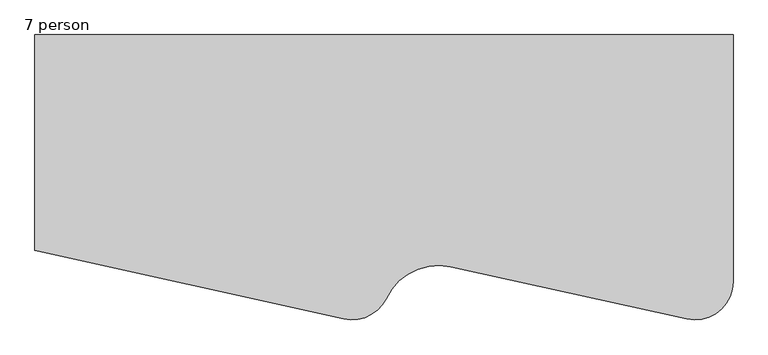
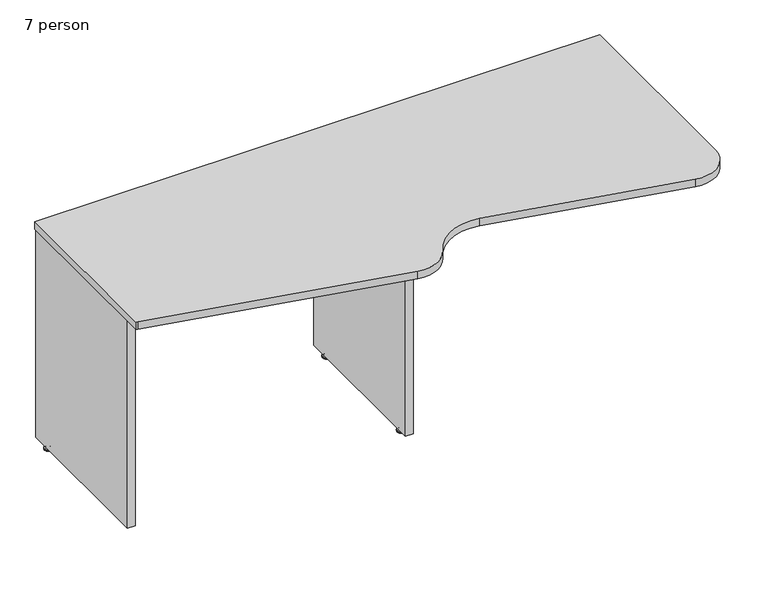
"""IFC4 building model written with IfcOpenShell, lengths in millimetres: furniture geometry, Nova Solutions - Collaboration Table - Keystone_6-7 person : 7 person."""

import ifcopenshell
import ifcopenshell.guid

model = None  # the IFC model being written
_history = None  # IfcOwnerHistory: only IFC2X3 demands one
_inside = {}  # id of a spatial element -> (the spatial element, [elements in it])
_under = {}  # id of a project, library or spatial element -> (it, [spatial elements below it])
_declared = {}  # id of a project -> (the project, [libraries it declares])
_typed = {}  # id of a type object -> (the type object, [elements of that type])
_made_of = {}  # id of a material, layer set ... -> (it, [elements and type objects made of it])


def new_model(schema):
    """Start an empty IFC model of exactly this schema.

    Asked for "IFC4X3", IfcOpenShell would pick the latest addendum, in which some entities
    have other attributes; the version numbers below select the first issue.
    IFC2X3 requires an IfcOwnerHistory on every rooted entity: one is made here for all.
    """
    global model, _history
    if schema == "IFC4X3":
        model = ifcopenshell.file(schema_version=(4, 3, 0, 0))
    else:
        model = ifcopenshell.file(schema=schema)
    _inside.clear()
    _under.clear()
    _declared.clear()
    _typed.clear()
    _made_of.clear()
    _history = None
    if model.schema == "IFC2X3":
        org = make("IfcOrganization", Name="unknown")
        user = make(
            "IfcPersonAndOrganization",
            ThePerson=make("IfcPerson", FamilyName="unknown"),
            TheOrganization=org,
        )
        app = make(
            "IfcApplication",
            ApplicationDeveloper=org,
            Version="unknown",
            ApplicationFullName="unknown",
            ApplicationIdentifier="unknown",
        )
        _history = make(
            "IfcOwnerHistory",
            OwningUser=user,
            OwningApplication=app,
            ChangeAction="ADDED",
            CreationDate=0,
        )
    return model


def make(cls, **values):
    """One entity of the class cls with the attributes given. An attribute that is None is left unset."""
    return model.create_entity(
        cls, **{name: value for name, value in values.items() if value is not None}
    )


def rooted(cls, **values):
    """An entity with a GlobalId (a new one), such as an element, a storey or a relation."""
    return make(cls, GlobalId=ifcopenshell.guid.new(), OwnerHistory=_history, **values)


def si_unit(unit_type, name, prefix=None):
    """IfcSIUnit, for example si_unit("LENGTHUNIT", "METRE", prefix="MILLI")."""
    return make("IfcSIUnit", UnitType=unit_type, Prefix=prefix, Name=name)


def assignment(units):
    """IfcUnitAssignment: the units of a project."""
    return None if units is None else make("IfcUnitAssignment", Units=units)


def point(xyz):
    """IfcCartesianPoint."""
    return None if xyz is None else make("IfcCartesianPoint", Coordinates=xyz)


def direction(xyz):
    """IfcDirection."""
    return None if xyz is None else make("IfcDirection", DirectionRatios=xyz)


def frame(location, z_axis=None, x_axis=None):
    """IfcAxis2Placement3D, a coordinate frame: its origin and axes. An axis left out is left unset."""
    return make(
        "IfcAxis2Placement3D",
        Location=point(location),
        Axis=direction(z_axis),
        RefDirection=direction(x_axis),
    )


def frame_2d(location, x_axis=None):
    """IfcAxis2Placement2D, a coordinate frame in the plane: its origin and x axis."""
    return make(
        "IfcAxis2Placement2D", Location=point(location), RefDirection=direction(x_axis)
    )


def origin():
    """The frame at (0, 0, 0) with its axes left unset."""
    return frame((0.0, 0.0, 0.0))


def place(relative_to, where):
    """IfcLocalPlacement: puts the frame where relative to a parent placement (None: the world)."""
    return make(
        "IfcLocalPlacement", PlacementRelTo=relative_to, RelativePlacement=where
    )


def context(
    kind, dimensions, precision=None, world=None, true_north=None, identifier=None
):
    """IfcGeometricRepresentationContext, for example the 3D "Model" context."""
    return make(
        "IfcGeometricRepresentationContext",
        ContextIdentifier=identifier,
        ContextType=kind,
        CoordinateSpaceDimension=dimensions,
        Precision=precision,
        WorldCoordinateSystem=world,
        TrueNorth=true_north,
    )


def project(units=None, contexts=None):
    """IfcProject with its units and contexts."""
    return rooted(
        "IfcProject",
        Name="project",
        RepresentationContexts=contexts,
        UnitsInContext=assignment(units),
    )


def spatial(cls, under=None, at=None, **own):
    """A site, building, storey or space (cls), placed at a placement, below another one or the project."""
    s = rooted(cls, ObjectPlacement=at, **own)
    if under is not None:
        _under.setdefault(under.id(), (under, []))[1].append(s)
    return s


def polyline(points):
    """IfcPolyline through the points."""
    return make("IfcPolyline", Points=[point(p) for p in points])


def circle_curve(where, radius):
    """IfcCircle in the frame where."""
    return make("IfcCircle", Position=where, Radius=radius)


def ellipse_curve(where, semi_axis1, semi_axis2):
    """IfcEllipse in the frame where."""
    return make(
        "IfcEllipse", Position=where, SemiAxis1=semi_axis1, SemiAxis2=semi_axis2
    )


def trimmed(basis, trim1, trim2, sense, master):
    """IfcTrimmedCurve: the piece of a basis curve between two trims."""
    return make(
        "IfcTrimmedCurve",
        BasisCurve=basis,
        Trim1=trim1,
        Trim2=trim2,
        SenseAgreement=sense,
        MasterRepresentation=master,
    )


def segment(curve, same_sense, transition):
    """IfcCompositeCurveSegment."""
    return make(
        "IfcCompositeCurveSegment",
        Transition=transition,
        SameSense=same_sense,
        ParentCurve=curve,
    )


def composite_curve(segments, self_intersect=None):
    """IfcCompositeCurve: segments joined end to end."""
    return make("IfcCompositeCurve", Segments=segments, SelfIntersect=self_intersect)


def outline(outer, holes=None, kind="AREA"):
    """IfcArbitraryClosedProfileDef: a profile drawn as a closed curve; with holes, ...WithVoids."""
    if holes is None:
        return make("IfcArbitraryClosedProfileDef", ProfileType=kind, OuterCurve=outer)
    return make(
        "IfcArbitraryProfileDefWithVoids",
        ProfileType=kind,
        OuterCurve=outer,
        InnerCurves=holes,
    )


def extrude(swept, where, along, depth):
    """IfcExtrudedAreaSolid: the profile swept, set in the frame where, extruded along a direction by depth."""
    return make(
        "IfcExtrudedAreaSolid",
        SweptArea=swept,
        Position=where,
        ExtrudedDirection=direction(along),
        Depth=depth,
    )


def shape(context_of_items, identifier, shape_type, items):
    """IfcShapeRepresentation: the items that make up one representation, for example the "Body"."""
    return make(
        "IfcShapeRepresentation",
        ContextOfItems=context_of_items,
        RepresentationIdentifier=identifier,
        RepresentationType=shape_type,
        Items=items,
    )


def source(mapping_origin, context_of_items, identifier, shape_type, items):
    """IfcRepresentationMap: a shape defined once, which mapped items show again and again."""
    return make(
        "IfcRepresentationMap",
        MappingOrigin=mapping_origin,
        MappedRepresentation=shape(context_of_items, identifier, shape_type, items),
    )


def transform(
    local_origin,
    x_axis=None,
    y_axis=None,
    z_axis=None,
    scale=None,
    scale2=None,
    scale3=None,
    uniform=True,
):
    """IfcCartesianTransformationOperator3D, or its non-uniform kind. x_axis, y_axis, z_axis: its Axis1, 2, 3."""
    if uniform:
        return make(
            "IfcCartesianTransformationOperator3D",
            Axis1=direction(x_axis),
            Axis2=direction(y_axis),
            LocalOrigin=point(local_origin),
            Scale=scale,
            Axis3=direction(z_axis),
        )
    return make(
        "IfcCartesianTransformationOperator3DnonUniform",
        Axis1=direction(x_axis),
        Axis2=direction(y_axis),
        LocalOrigin=point(local_origin),
        Scale=scale,
        Axis3=direction(z_axis),
        Scale2=scale2,
        Scale3=scale3,
    )


def mapped(mapping_source, mapping_target):
    """IfcMappedItem: shows the shape of a source again, moved by a transform."""
    return make(
        "IfcMappedItem", MappingSource=mapping_source, MappingTarget=mapping_target
    )


def made_of(thing, what):
    """Note that an element or type object is made of a material, layer set ...; save() writes the relation."""
    if what is not None:
        _made_of.setdefault(what.id(), (what, []))[1].append(thing)
    return thing


def element(
    cls,
    number,
    at=None,
    inside=None,
    cuts=None,
    type_object=None,
    material=None,
    context=None,
    identifier="Body",
    shape_type=None,
    held_by="IfcProductDefinitionShape",
    body=None,
    shapes=None,
    **own,
):
    """One element of the class cls, such as IfcWall. Its Tag is "e" and its number.

    at: its placement. inside: the storey or other place that contains it. cuts: it is an
    opening in that element (IfcRelVoidsElement). A single representation is given by context,
    identifier, shape_type and body (its items); several are given by shapes. held_by: the class
    of the entity that holds the representations. save() writes the other relations.
    """
    e = rooted(cls, Tag="e%d" % number, ObjectPlacement=at, **own)
    if body is not None:
        shapes = [shape(context, identifier, shape_type, body)]
    if shapes is not None:
        e.Representation = make(held_by, Representations=shapes)
    if inside is not None:
        _inside.setdefault(inside.id(), (inside, []))[1].append(e)
    if cuts is not None:
        rooted(
            "IfcRelVoidsElement", RelatingBuildingElement=cuts, RelatedOpeningElement=e
        )
    if type_object is not None:
        _typed.setdefault(type_object.id(), (type_object, []))[1].append(e)
    return made_of(e, material)


def aggregate(whole, parts):
    """IfcRelAggregates: a whole, such as a stair, and the parts it consists of."""
    return rooted("IfcRelAggregates", RelatingObject=whole, RelatedObjects=parts)


def save(model, path):
    """Write the relations noted so far, then the file.

    IfcRelAggregates (storeys below a building ...), IfcRelContainedInSpatialStructure (elements
    in a storey), IfcRelDefinesByType, IfcRelAssociatesMaterial and IfcRelDeclares: one each for
    every whole, place, type object, material and project.
    """
    for whole, parts in _under.values():
        aggregate(whole, parts)
    for where, things in _inside.values():
        rooted(
            "IfcRelContainedInSpatialStructure",
            RelatedElements=things,
            RelatingStructure=where,
        )
    for kind, things in _typed.values():
        rooted("IfcRelDefinesByType", RelatedObjects=things, RelatingType=kind)
    for what, things in _made_of.values():
        rooted("IfcRelAssociatesMaterial", RelatedObjects=things, RelatingMaterial=what)
    for by, libraries in _declared.values():
        rooted("IfcRelDeclares", RelatingContext=by, RelatedDefinitions=libraries)
    model.write(path)


def plane_surface(at):
    """IfcPlane: the flat surface through the origin of the frame at, square to its z axis."""
    return make("IfcPlane", Position=at)


def cylinder_surface(at, radius):
    """IfcCylindricalSurface: all points at the distance radius from the z axis of the frame at."""
    return make("IfcCylindricalSurface", Position=at, Radius=radius)


def revolved_surface(curve, axis_point, axis_direction):
    """IfcSurfaceOfRevolution: the curve turned about the line through axis_point along axis_direction."""
    return make(
        "IfcSurfaceOfRevolution",
        SweptCurve=make("IfcArbitraryOpenProfileDef", ProfileType="CURVE", Curve=curve),
        AxisPosition=make("IfcAxis1Placement", Location=point(axis_point), Axis=direction(axis_direction)),
    )


def advanced_brep(points, edges, surfaces, faces):
    """IfcAdvancedBrep: a solid bounded by faces that lie on surfaces and meet in shared edges.

    An edge is (start, end): straight between two places in points (the first is 0);
    or (start, end, curve); or (start, end, curve, False) where it runs against its curve.
    A face is (place in surfaces, loops), or (place, loops, False) where it looks against
    its surface's normal. A loop lists edges by number (the first is 1), with a minus sign
    where the edge is run from its end to its start. The first loop is the outer one.
    """
    corners = [point(p) for p in points]
    vertices = [make("IfcVertexPoint", VertexGeometry=c) for c in corners]
    made = []
    for start, end, *more in edges:
        made.append(
            make(
                "IfcEdgeCurve",
                EdgeStart=vertices[start],
                EdgeEnd=vertices[end],
                EdgeGeometry=more[0] if more else make("IfcPolyline", Points=[corners[start], corners[end]]),
                SameSense=more[1] if len(more) > 1 else True,
            )
        )
    hull = []
    for where, loops, *sense in faces:
        bounds = []
        for j, loop in enumerate(loops):
            ring = [make("IfcOrientedEdge", EdgeElement=made[abs(k) - 1], Orientation=k > 0) for k in loop]
            bounds.append(
                make(
                    "IfcFaceOuterBound" if j == 0 else "IfcFaceBound",
                    Bound=make("IfcEdgeLoop", EdgeList=ring),
                    Orientation=True,
                )
            )
        hull.append(make("IfcAdvancedFace", Bounds=bounds, FaceSurface=surfaces[where], SameSense=sense[0] if sense else True))
    return make("IfcAdvancedBrep", Outer=make("IfcClosedShell", CfsFaces=hull))


def furniture_7_person_16e840e4(model_context):
    return source(origin(), model_context, "Body", "SolidModel", [
        advanced_brep(
        [(-463.1276506, -50.3590625, 11.1125), (-456.45, -50.3590625, 11.1125), (-449.7723494, -50.3590625, 11.1125), (-463.1276506, -50.3590625, 9.525), (-449.7723494, -50.3590625, 9.525), (-468.3355135, -50.3590625, 4.7748687), (-444.5644865, -50.3590625, 4.7748687), (-469.1966506, -50.3590625, 3.989419), (-443.7033494, -50.3590625, 3.989419), (-469.1966506, -50.3590625, 3.175), (-443.7033494, -50.3590625, 3.175), (-468.3459119, -50.3590625, 0.0), (-444.5540881, -50.3590625, 0.0), (-456.45, -50.3590625, 0.0)],
        [
            (0, 1),
            (1, 2),
            (2, 0, circle_curve(frame((-456.45, -50.3590625, 11.1125), z_axis=(0.0, 0.0, 1.0), x_axis=(1.0, 0.0, 0.0)), 6.6776506)),
            (0, 2, circle_curve(frame((-456.45, -50.3590625, 11.1125), z_axis=(0.0, 0.0, 1.0), x_axis=(1.0, 0.0, 0.0)), 6.6776506)),
            (3, 0),
            (2, 4),
            (4, 3, circle_curve(frame((-456.45, -50.3590625, 9.525), z_axis=(0.0, 0.0, 1.0), x_axis=(1.0, 0.0, 0.0)), 6.6776506)),
            (3, 4, circle_curve(frame((-456.45, -50.3590625, 9.525), z_axis=(0.0, 0.0, 1.0), x_axis=(1.0, 0.0, 0.0)), 6.6776506)),
            (5, 3, circle_curve(frame((-469.3820627, -50.3590625, 11.1521822), z_axis=(0.0, -1.0, 0.0), x_axis=(1.0, 0.0, 0.0)), 6.462615)),
            (4, 6, circle_curve(frame((-443.5179373, -50.3590625, 11.1521822), z_axis=(0.0, -1.0, 0.0), x_axis=(-1.0, 0.0, 0.0)), 6.462615)),
            (6, 5, circle_curve(frame((-456.45, -50.3590625, 4.7748687), z_axis=(0.0, 0.0, 1.0), x_axis=(1.0, 0.0, 0.0)), 11.8855135)),
            (5, 6, circle_curve(frame((-456.45, -50.3590625, 4.7748687), z_axis=(0.0, 0.0, 1.0), x_axis=(1.0, 0.0, 0.0)), 11.8855135)),
            (7, 5, circle_curve(frame((-468.1624632, -50.3590625, 3.7203591), z_axis=(0.0, 1.0, 0.0), x_axis=(1.0, 0.0, 0.0)), 1.0686145)),
            (6, 8, circle_curve(frame((-444.7375368, -50.3590625, 3.7203591), z_axis=(0.0, 1.0, 0.0), x_axis=(-1.0, 0.0, 0.0)), 1.0686145)),
            (8, 7, circle_curve(frame((-456.45, -50.3590625, 3.989419), z_axis=(0.0, 0.0, 1.0), x_axis=(1.0, 0.0, 0.0)), 12.7466506)),
            (7, 8, circle_curve(frame((-456.45, -50.3590625, 3.989419), z_axis=(0.0, 0.0, 1.0), x_axis=(1.0, 0.0, 0.0)), 12.7466506)),
            (9, 7),
            (8, 10),
            (10, 9, circle_curve(frame((-456.45, -50.3590625, 3.175), z_axis=(0.0, 0.0, 1.0), x_axis=(1.0, 0.0, 0.0)), 12.7466506)),
            (9, 10, circle_curve(frame((-456.45, -50.3590625, 3.175), z_axis=(0.0, 0.0, 1.0), x_axis=(1.0, 0.0, 0.0)), 12.7466506)),
            (11, 9),
            (10, 12),
            (12, 11, circle_curve(frame((-456.45, -50.3590625, 0.0), z_axis=(0.0, 0.0, 1.0), x_axis=(1.0, 0.0, 0.0)), 11.8959119)),
            (11, 12, circle_curve(frame((-456.45, -50.3590625, 0.0), z_axis=(0.0, 0.0, 1.0), x_axis=(1.0, 0.0, 0.0)), 11.8959119)),
            (13, 11),
            (12, 13),
        ],
        [
            plane_surface(frame((-456.45, -50.3590625, 11.1125), z_axis=(0.0, 0.0, 1.0), x_axis=(1.0, 0.0, 0.0))),
            cylinder_surface(frame((-456.45, -50.3590625, 43.2095994), z_axis=(0.0, 0.0, -1.0), x_axis=(1.0, 0.0, 0.0)), 6.6776506),
            revolved_surface(trimmed(ellipse_curve(frame((-443.5179373, -50.3590625, 11.1521822), z_axis=(0.0, -1.0, 0.0), x_axis=(-1.0, 0.0, 0.0)), 6.462615, 6.462615), [point((-449.7723494, -50.3590625, 9.525))], [point((-444.5644865, -50.3590625, 4.7748687))], True, "CARTESIAN"), (-456.45, -50.3590625, 43.2095994), (0.0, 0.0, -1.0)),
            revolved_surface(trimmed(ellipse_curve(frame((-444.7375368, -50.3590625, 3.7203591), z_axis=(0.0, 1.0, 0.0), x_axis=(-1.0, 0.0, 0.0)), 1.0686145, 1.0686145), [point((-444.5644865, -50.3590625, 4.7748687))], [point((-443.7033494, -50.3590625, 3.989419))], True, "CARTESIAN"), (-456.45, -50.3590625, 43.2095994), (0.0, 0.0, -1.0)),
            cylinder_surface(frame((-456.45, -50.3590625, 43.2095994), z_axis=(0.0, 0.0, -1.0), x_axis=(1.0, 0.0, 0.0)), 12.7466506),
            revolved_surface(polyline([(-443.7033494, -50.3590625, 3.175), (-444.5540881, -50.3590625, 0.0)]), (-456.45, -50.3590625, 43.2095994), (0.0, 0.0, -1.0)),
            plane_surface(frame((-456.45, -50.3590625, 0.0), z_axis=(0.0, 0.0, -1.0), x_axis=(1.0, 0.0, 0.0))),
        ],
        [
            (0, [[1, 2, 3]]),
            (0, [[-2, -1, 4]]),
            (1, [[5, -3, 6, 7]]),
            (1, [[-6, -4, -5, 8]]),
            (2, [[9, -7, 10, 11]]),
            (2, [[-10, -8, -9, 12]]),
            (3, [[13, -11, 14, 15]]),
            (3, [[-14, -12, -13, 16]]),
            (4, [[17, -15, 18, 19]]),
            (4, [[-18, -16, -17, 20]]),
            (5, [[21, -19, 22, 23]]),
            (5, [[-22, -20, -21, 24]]),
            (6, [[25, -23, 26]]),
            (6, [[-26, -24, -25]]),
        ],
    ),
        extrude(outline(polyline([(-469.3, -1.345), (-443.6, -1.345), (-443.6, -523.345), (-469.3, -523.345), (-469.3, -1.345)])), frame((0.0, 0.0, 15.6), z_axis=(0.0, 0.0, 1.0), x_axis=(1.0, 0.0, 0.0)), (0.0, 0.0, 1.0), 720.7),
        advanced_brep(
        [(463.1276506, -474.3309375, 11.1125), (449.7723494, -474.3309375, 11.1125), (456.45, -474.3309375, 11.1125), (463.1276506, -474.3309375, 9.525), (449.7723494, -474.3309375, 9.525), (468.3355135, -474.3309375, 4.7748687), (444.5644865, -474.3309375, 4.7748687), (469.1966506, -474.3309375, 3.989419), (443.7033494, -474.3309375, 3.989419), (469.1966506, -474.3309375, 3.175), (443.7033494, -474.3309375, 3.175), (468.3459119, -474.3309375, 0.0), (444.5540881, -474.3309375, 0.0), (456.45, -474.3309375, 0.0)],
        [
            (0, 1, circle_curve(frame((456.45, -474.3309375, 11.1125), z_axis=(0.0, 0.0, 1.0), x_axis=(-1.0, 0.0, 0.0)), 6.6776506)),
            (1, 2),
            (2, 0),
            (1, 0, circle_curve(frame((456.45, -474.3309375, 11.1125), z_axis=(0.0, 0.0, 1.0), x_axis=(-1.0, 0.0, 0.0)), 6.6776506)),
            (3, 4, circle_curve(frame((456.45, -474.3309375, 9.525), z_axis=(0.0, 0.0, 1.0), x_axis=(-1.0, 0.0, 0.0)), 6.6776506)),
            (4, 1),
            (0, 3),
            (4, 3, circle_curve(frame((456.45, -474.3309375, 9.525), z_axis=(0.0, 0.0, 1.0), x_axis=(-1.0, 0.0, 0.0)), 6.6776506)),
            (5, 6, circle_curve(frame((456.45, -474.3309375, 4.7748687), z_axis=(0.0, 0.0, 1.0), x_axis=(-1.0, 0.0, 0.0)), 11.8855135)),
            (6, 4, circle_curve(frame((443.5179373, -474.3309375, 11.1521822), z_axis=(0.0, -1.0, 0.0), x_axis=(1.0, 0.0, 0.0)), 6.462615)),
            (3, 5, circle_curve(frame((469.3820627, -474.3309375, 11.1521822), z_axis=(0.0, -1.0, 0.0), x_axis=(-1.0, 0.0, 0.0)), 6.462615)),
            (6, 5, circle_curve(frame((456.45, -474.3309375, 4.7748687), z_axis=(0.0, 0.0, 1.0), x_axis=(-1.0, 0.0, 0.0)), 11.8855135)),
            (7, 8, circle_curve(frame((456.45, -474.3309375, 3.989419), z_axis=(0.0, 0.0, 1.0), x_axis=(-1.0, 0.0, 0.0)), 12.7466506)),
            (8, 6, circle_curve(frame((444.7375368, -474.3309375, 3.7203591), z_axis=(0.0, 1.0, 0.0), x_axis=(1.0, 0.0, 0.0)), 1.0686145)),
            (5, 7, circle_curve(frame((468.1624632, -474.3309375, 3.7203591), z_axis=(0.0, 1.0, 0.0), x_axis=(-1.0, 0.0, 0.0)), 1.0686145)),
            (8, 7, circle_curve(frame((456.45, -474.3309375, 3.989419), z_axis=(0.0, 0.0, 1.0), x_axis=(-1.0, 0.0, 0.0)), 12.7466506)),
            (9, 10, circle_curve(frame((456.45, -474.3309375, 3.175), z_axis=(0.0, 0.0, 1.0), x_axis=(-1.0, 0.0, 0.0)), 12.7466506)),
            (10, 8),
            (7, 9),
            (10, 9, circle_curve(frame((456.45, -474.3309375, 3.175), z_axis=(0.0, 0.0, 1.0), x_axis=(-1.0, 0.0, 0.0)), 12.7466506)),
            (11, 12, circle_curve(frame((456.45, -474.3309375, 0.0), z_axis=(0.0, 0.0, 1.0), x_axis=(-1.0, 0.0, 0.0)), 11.8959119)),
            (12, 10),
            (9, 11),
            (12, 11, circle_curve(frame((456.45, -474.3309375, 0.0), z_axis=(0.0, 0.0, 1.0), x_axis=(-1.0, 0.0, 0.0)), 11.8959119)),
            (13, 12),
            (11, 13),
        ],
        [
            plane_surface(frame((456.45, -474.3309375, 11.1125), z_axis=(0.0, 0.0, 1.0), x_axis=(-1.0, 0.0, 0.0))),
            cylinder_surface(frame((456.45, -474.3309375, 43.2095994), z_axis=(0.0, 0.0, -1.0), x_axis=(-1.0, 0.0, 0.0)), 6.6776506),
            revolved_surface(trimmed(ellipse_curve(frame((443.5179373, -474.3309375, 11.1521822), z_axis=(0.0, 1.0, 0.0), x_axis=(1.0, 0.0, 0.0)), 6.462615, 6.462615), [point((449.7723494, -474.3309375, 9.525))], [point((444.5644865, -474.3309375, 4.7748687))], True, "CARTESIAN"), (456.45, -474.3309375, 43.2095994), (0.0, 0.0, -1.0)),
            revolved_surface(trimmed(ellipse_curve(frame((444.7375368, -474.3309375, 3.7203591), z_axis=(0.0, -1.0, 0.0), x_axis=(1.0, 0.0, 0.0)), 1.0686145, 1.0686145), [point((444.5644865, -474.3309375, 4.7748687))], [point((443.7033494, -474.3309375, 3.989419))], True, "CARTESIAN"), (456.45, -474.3309375, 43.2095994), (0.0, 0.0, -1.0)),
            cylinder_surface(frame((456.45, -474.3309375, 43.2095994), z_axis=(0.0, 0.0, -1.0), x_axis=(-1.0, 0.0, 0.0)), 12.7466506),
            revolved_surface(polyline([(443.7033494, -474.3309375, 3.175), (444.5540881, -474.3309375, 0.0)]), (456.45, -474.3309375, 43.2095994), (0.0, 0.0, -1.0)),
            plane_surface(frame((456.45, -474.3309375, 0.0), z_axis=(0.0, 0.0, -1.0), x_axis=(-1.0, 0.0, 0.0))),
        ],
        [
            (0, [[1, 2, 3]]),
            (0, [[4, -3, -2]]),
            (1, [[5, 6, -1, 7]]),
            (1, [[8, -7, -4, -6]]),
            (2, [[9, 10, -5, 11]]),
            (2, [[12, -11, -8, -10]]),
            (3, [[13, 14, -9, 15]]),
            (3, [[16, -15, -12, -14]]),
            (4, [[17, 18, -13, 19]]),
            (4, [[20, -19, -16, -18]]),
            (5, [[21, 22, -17, 23]]),
            (5, [[24, -23, -20, -22]]),
            (6, [[25, -21, 26]]),
            (6, [[-26, -24, -25]]),
        ],
    ),
        advanced_brep(
        [(463.1276506, -50.3590625, 11.1125), (449.7723494, -50.3590625, 11.1125), (456.45, -50.3590625, 11.1125), (463.1276506, -50.3590625, 9.525), (449.7723494, -50.3590625, 9.525), (468.3355135, -50.3590625, 4.7748687), (444.5644865, -50.3590625, 4.7748687), (469.1966506, -50.3590625, 3.989419), (443.7033494, -50.3590625, 3.989419), (469.1966506, -50.3590625, 3.175), (443.7033494, -50.3590625, 3.175), (468.3459119, -50.3590625, 0.0), (444.5540881, -50.3590625, 0.0), (456.45, -50.3590625, 0.0)],
        [
            (0, 1, circle_curve(frame((456.45, -50.3590625, 11.1125), z_axis=(0.0, 0.0, 1.0), x_axis=(-1.0, 0.0, 0.0)), 6.6776506)),
            (1, 2),
            (2, 0),
            (1, 0, circle_curve(frame((456.45, -50.3590625, 11.1125), z_axis=(0.0, 0.0, 1.0), x_axis=(-1.0, 0.0, 0.0)), 6.6776506)),
            (3, 4, circle_curve(frame((456.45, -50.3590625, 9.525), z_axis=(0.0, 0.0, 1.0), x_axis=(-1.0, 0.0, 0.0)), 6.6776506)),
            (4, 1),
            (0, 3),
            (4, 3, circle_curve(frame((456.45, -50.3590625, 9.525), z_axis=(0.0, 0.0, 1.0), x_axis=(-1.0, 0.0, 0.0)), 6.6776506)),
            (5, 6, circle_curve(frame((456.45, -50.3590625, 4.7748687), z_axis=(0.0, 0.0, 1.0), x_axis=(-1.0, 0.0, 0.0)), 11.8855135)),
            (6, 4, circle_curve(frame((443.5179373, -50.3590625, 11.1521822), z_axis=(0.0, -1.0, 0.0), x_axis=(1.0, 0.0, 0.0)), 6.462615)),
            (3, 5, circle_curve(frame((469.3820627, -50.3590625, 11.1521822), z_axis=(0.0, -1.0, 0.0), x_axis=(-1.0, 0.0, 0.0)), 6.462615)),
            (6, 5, circle_curve(frame((456.45, -50.3590625, 4.7748687), z_axis=(0.0, 0.0, 1.0), x_axis=(-1.0, 0.0, 0.0)), 11.8855135)),
            (7, 8, circle_curve(frame((456.45, -50.3590625, 3.989419), z_axis=(0.0, 0.0, 1.0), x_axis=(-1.0, 0.0, 0.0)), 12.7466506)),
            (8, 6, circle_curve(frame((444.7375368, -50.3590625, 3.7203591), z_axis=(0.0, 1.0, 0.0), x_axis=(1.0, 0.0, 0.0)), 1.0686145)),
            (5, 7, circle_curve(frame((468.1624632, -50.3590625, 3.7203591), z_axis=(0.0, 1.0, 0.0), x_axis=(-1.0, 0.0, 0.0)), 1.0686145)),
            (8, 7, circle_curve(frame((456.45, -50.3590625, 3.989419), z_axis=(0.0, 0.0, 1.0), x_axis=(-1.0, 0.0, 0.0)), 12.7466506)),
            (9, 10, circle_curve(frame((456.45, -50.3590625, 3.175), z_axis=(0.0, 0.0, 1.0), x_axis=(-1.0, 0.0, 0.0)), 12.7466506)),
            (10, 8),
            (7, 9),
            (10, 9, circle_curve(frame((456.45, -50.3590625, 3.175), z_axis=(0.0, 0.0, 1.0), x_axis=(-1.0, 0.0, 0.0)), 12.7466506)),
            (11, 12, circle_curve(frame((456.45, -50.3590625, 0.0), z_axis=(0.0, 0.0, 1.0), x_axis=(-1.0, 0.0, 0.0)), 11.8959119)),
            (12, 10),
            (9, 11),
            (12, 11, circle_curve(frame((456.45, -50.3590625, 0.0), z_axis=(0.0, 0.0, 1.0), x_axis=(-1.0, 0.0, 0.0)), 11.8959119)),
            (13, 12),
            (11, 13),
        ],
        [
            plane_surface(frame((456.45, -50.3590625, 11.1125), z_axis=(0.0, 0.0, 1.0), x_axis=(-1.0, 0.0, 0.0))),
            cylinder_surface(frame((456.45, -50.3590625, 43.2095994), z_axis=(0.0, 0.0, -1.0), x_axis=(-1.0, 0.0, 0.0)), 6.6776506),
            revolved_surface(trimmed(ellipse_curve(frame((443.5179373, -50.3590625, 11.1521822), z_axis=(0.0, 1.0, 0.0), x_axis=(1.0, 0.0, 0.0)), 6.462615, 6.462615), [point((449.7723494, -50.3590625, 9.525))], [point((444.5644865, -50.3590625, 4.7748687))], True, "CARTESIAN"), (456.45, -50.3590625, 43.2095994), (0.0, 0.0, -1.0)),
            revolved_surface(trimmed(ellipse_curve(frame((444.7375368, -50.3590625, 3.7203591), z_axis=(0.0, -1.0, 0.0), x_axis=(1.0, 0.0, 0.0)), 1.0686145, 1.0686145), [point((444.5644865, -50.3590625, 4.7748687))], [point((443.7033494, -50.3590625, 3.989419))], True, "CARTESIAN"), (456.45, -50.3590625, 43.2095994), (0.0, 0.0, -1.0)),
            cylinder_surface(frame((456.45, -50.3590625, 43.2095994), z_axis=(0.0, 0.0, -1.0), x_axis=(-1.0, 0.0, 0.0)), 12.7466506),
            revolved_surface(polyline([(443.7033494, -50.3590625, 3.175), (444.5540881, -50.3590625, 0.0)]), (456.45, -50.3590625, 43.2095994), (0.0, 0.0, -1.0)),
            plane_surface(frame((456.45, -50.3590625, 0.0), z_axis=(0.0, 0.0, -1.0), x_axis=(-1.0, 0.0, 0.0))),
        ],
        [
            (0, [[1, 2, 3]]),
            (0, [[4, -3, -2]]),
            (1, [[5, 6, -1, 7]]),
            (1, [[8, -7, -4, -6]]),
            (2, [[9, 10, -5, 11]]),
            (2, [[12, -11, -8, -10]]),
            (3, [[13, 14, -9, 15]]),
            (3, [[16, -15, -12, -14]]),
            (4, [[17, 18, -13, 19]]),
            (4, [[20, -19, -16, -18]]),
            (5, [[21, 22, -17, 23]]),
            (5, [[24, -23, -20, -22]]),
            (6, [[25, -21, 26]]),
            (6, [[-26, -24, -25]]),
        ],
    ),
        extrude(outline(polyline([(469.3, -1.345), (469.3, -523.345), (443.6, -523.345), (443.6, -1.345), (469.3, -1.345)])), frame((0.0, 0.0, 15.6), z_axis=(0.0, 0.0, 1.0), x_axis=(1.0, 0.0, 0.0)), (0.0, 0.0, 1.0), 720.7),
        extrude(outline(composite_curve([segment(polyline([(1383.5, 0.0), (1383.5, -656.5229386)]), True, "CONTINUOUS"), segment(trimmed(circle_curve(frame_2d((1282.0, -656.5229386)), 101.5), [point((1383.5, -656.5229386))], [point((1260.0313792, -755.6169834))], False, "CARTESIAN"), True, "CONTINUOUS"), segment(polyline([(1260.0313792, -755.6169834), (633.5284283, -616.724623)]), True, "CONTINUOUS"), segment(trimmed(circle_curve(frame_2d((600.5430311, -765.5121345)), 152.4), [point((633.5284283, -616.724623))], [point((461.8649334, -702.3128843))], True, "CARTESIAN"), True, "CONTINUOUS"), segment(trimmed(circle_curve(frame_2d((371.2632006, -656.5572725)), 101.5), [point((461.8649334, -702.3128843))], [point((349.1672116, -755.6229945))], False, "CARTESIAN"), True, "CONTINUOUS"), segment(polyline([(349.1672116, -755.6229945), (-464.3258236, -574.1784667)]), True, "CONTINUOUS"), segment(trimmed(circle_curve(frame_2d((-445.3751452, -474.4632633)), 101.5), [point((-464.3258236, -574.1784667))], [point((-470.738, -572.7433508))], False, "CARTESIAN"), True, "CONTINUOUS"), segment(polyline([(-470.738, -572.7433508), (-470.738, 0.0), (1383.5, 0.0)]), True, "CONTINUOUS")], self_intersect=False)), frame((0.0, 0.0, 736.3), z_axis=(0.0, 0.0, 1.0), x_axis=(1.0, 0.0, 0.0)), (0.0, 0.0, 1.0), 25.7),
    ])


if __name__ == "__main__":
    model = new_model("IFC4")
    model_context = context("Model", 3, world=origin())
    ifc_project = project(units=[si_unit("LENGTHUNIT", "METRE", prefix="MILLI")], contexts=[model_context])
    site = spatial("IfcSite", under=ifc_project)
    building = spatial("IfcBuilding", under=site)
    placement = place(None, origin())
    furniture_7_person_shape = furniture_7_person_16e840e4(model_context)
    element("IfcFurniture", 1, ObjectType="Nova Solutions - Collaboration Table - Keystone_6-7 person : 7 person", at=placement, inside=building, context=model_context, shape_type="MappedRepresentation", body=[
        mapped(furniture_7_person_shape, transform((0.0, 0.0, 0.0), x_axis=(1.0, 0.0, 0.0), y_axis=(0.0, 1.0, 0.0), z_axis=(0.0, 0.0, 1.0))),
    ])
    save(model, "model.ifc")
